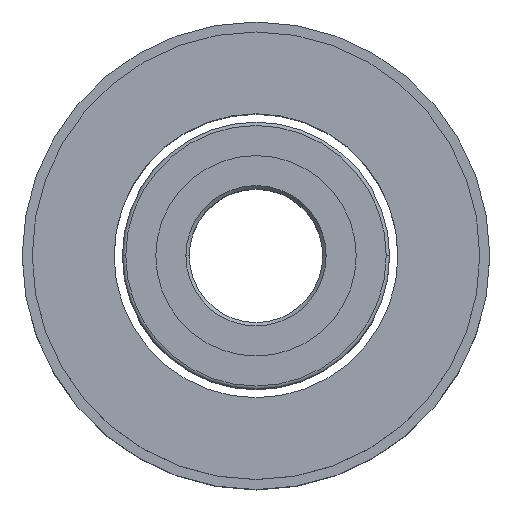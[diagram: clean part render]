
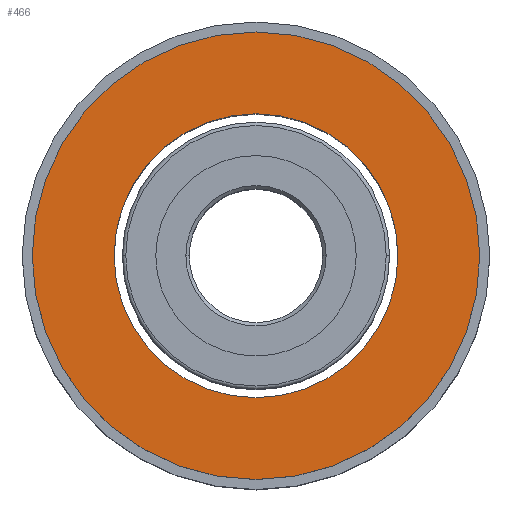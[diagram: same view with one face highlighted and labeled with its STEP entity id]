
A CAD part, top view. The second image highlights one B-rep face of the part: STEP entity #466.
In plain terms, the highlighted planar face has unit normal (0, 0, 1).
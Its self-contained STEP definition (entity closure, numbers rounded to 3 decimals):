
#37 = AXIS2_PLACEMENT_3D ( 'NONE', #1073, #177, #1085 ) ;
#38 = DIRECTION ( 'NONE',  ( -1., 0., 0. ) ) ;
#42 = DIRECTION ( 'NONE',  ( 0., 0., -1. ) ) ;
#53 = AXIS2_PLACEMENT_3D ( 'NONE', #1008, #371, #197 ) ;
#58 = EDGE_CURVE ( 'NONE', #278, #799, #1021, .T. ) ;
#116 = ORIENTED_EDGE ( 'NONE', *, *, #58, .F. ) ;
#133 = CARTESIAN_POINT ( 'NONE',  ( 0., 6.7, 0. ) ) ;
#177 = DIRECTION ( 'NONE',  ( 0., 0., -1. ) ) ;
#182 = AXIS2_PLACEMENT_3D ( 'NONE', #133, #1135, #238 ) ;
#197 = DIRECTION ( 'NONE',  ( -1., 0., 0. ) ) ;
#231 = FACE_BOUND ( 'NONE', #961, .T. ) ;
#238 = DIRECTION ( 'NONE',  ( 1., 0., 0. ) ) ;
#262 = ORIENTED_EDGE ( 'NONE', *, *, #819, .F. ) ;
#278 = VERTEX_POINT ( 'NONE', #985 ) ;
#297 = ORIENTED_EDGE ( 'NONE', *, *, #357, .T. ) ;
#315 = CARTESIAN_POINT ( 'NONE',  ( 0., 0., 0. ) ) ;
#357 = EDGE_CURVE ( 'NONE', #950, #978, #557, .T. ) ;
#371 = DIRECTION ( 'NONE',  ( 0., 0., -1. ) ) ;
#409 = FACE_OUTER_BOUND ( 'NONE', #1124, .T. ) ;
#440 = EDGE_CURVE ( 'NONE', #978, #950, #1171, .T. ) ;
#466 = ADVANCED_FACE ( 'NONE', ( #231, #409 ), #952, .T. ) ;
#485 = DIRECTION ( 'NONE',  ( 0., 0., -1. ) ) ;
#555 = AXIS2_PLACEMENT_3D ( 'NONE', #315, #485, #1130 ) ;
#557 = CIRCLE ( 'NONE', #53, 4.25 ) ;
#605 = CARTESIAN_POINT ( 'NONE',  ( 4.25, 0., 0. ) ) ;
#676 = CARTESIAN_POINT ( 'NONE',  ( -4.25, 0., 0. ) ) ;
#760 = CARTESIAN_POINT ( 'NONE',  ( 0., 0., 0. ) ) ;
#799 = VERTEX_POINT ( 'NONE', #1003 ) ;
#819 = EDGE_CURVE ( 'NONE', #799, #278, #1158, .T. ) ;
#890 = ORIENTED_EDGE ( 'NONE', *, *, #440, .T. ) ;
#950 = VERTEX_POINT ( 'NONE', #676 ) ;
#952 = PLANE ( 'NONE',  #182 ) ;
#957 = AXIS2_PLACEMENT_3D ( 'NONE', #760, #42, #38 ) ;
#961 = EDGE_LOOP ( 'NONE', ( #297, #890 ) ) ;
#978 = VERTEX_POINT ( 'NONE', #605 ) ;
#985 = CARTESIAN_POINT ( 'NONE',  ( -6.7, 0., 0. ) ) ;
#1003 = CARTESIAN_POINT ( 'NONE',  ( 6.7, 0., 0. ) ) ;
#1008 = CARTESIAN_POINT ( 'NONE',  ( 0., 0., 0. ) ) ;
#1021 = CIRCLE ( 'NONE', #555, 6.7 ) ;
#1073 = CARTESIAN_POINT ( 'NONE',  ( 0., 0., 0. ) ) ;
#1085 = DIRECTION ( 'NONE',  ( -1., 0., 0. ) ) ;
#1124 = EDGE_LOOP ( 'NONE', ( #116, #262 ) ) ;
#1130 = DIRECTION ( 'NONE',  ( -1., 0., 0. ) ) ;
#1135 = DIRECTION ( 'NONE',  ( 0., 0., 1. ) ) ;
#1158 = CIRCLE ( 'NONE', #37, 6.7 ) ;
#1171 = CIRCLE ( 'NONE', #957, 4.25 ) ;
